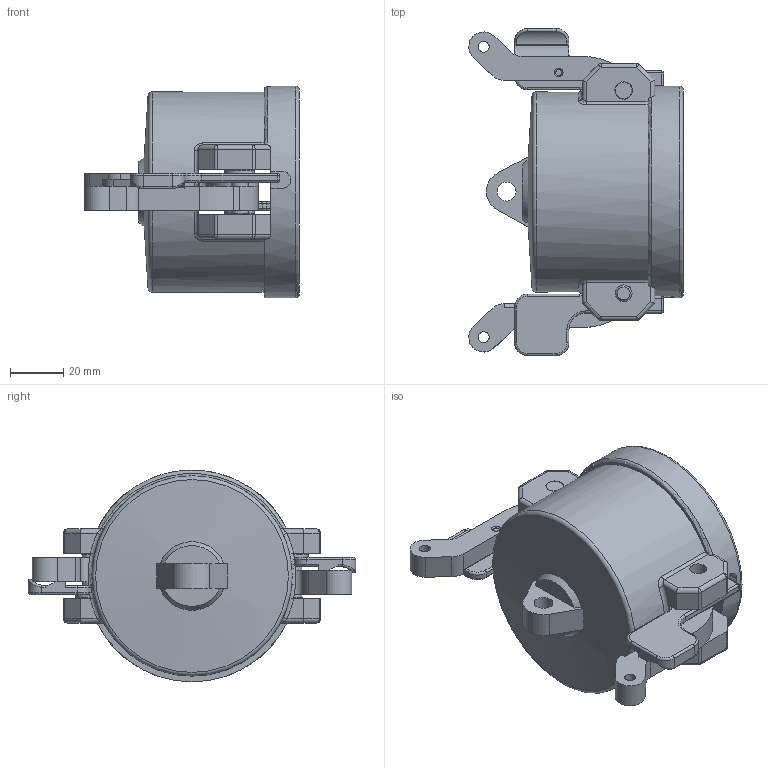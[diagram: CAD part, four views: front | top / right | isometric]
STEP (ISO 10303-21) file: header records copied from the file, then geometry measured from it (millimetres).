
FILE_DESCRIPTION(/* description */ ('Alibre Inc.'),/* implementation_level */ '2;1');
FILE_NAME(/* name */ 'export0',/* time_stamp */ '2016-03-21T10:21:05-04:00',/* author */ (''),/* organization */ (''),/* preprocessor_version */ 'ST-DEVELOPER v14',/* originating_system */ 'Alibre',/* authorisation */ '');
FILE_SCHEMA (('CONFIG_CONTROL_DESIGN'));
Length unit declared in the file: centimetre
Products named in the file (6): ID_1
Bounding box: 80.51 x 122.94 x 79.5 mm (x, y, z)
Volume: 141504.8 mm3; surface area: 55576.5 mm2
Topology: 8 solids, 8 shells, 349 faces, 837 edges, 497 vertices
Faces by surface type: cylinder 140, plane 137, torus 29, sphere 25, bspline 12, cone 6
Full cylindrical faces by diameter (mm): 4.064 x2, 6.35 x8, 6.604 x4, 7.112 x1, 11.125 x2, 50.8 x1, 63.5 x1, 66.802 x1, 68.326 x1, 75.184 x1, 79.502 x1
Entity records: 8294 total; most frequent: CARTESIAN_POINT 2454, ORIENTED_EDGE 1088, DIRECTION 1004, EDGE_CURVE 544, AXIS2_PLACEMENT_3D 422, VERTEX_POINT 339, EDGE_LOOP 285, FACE_BOUND 285
